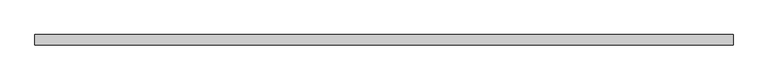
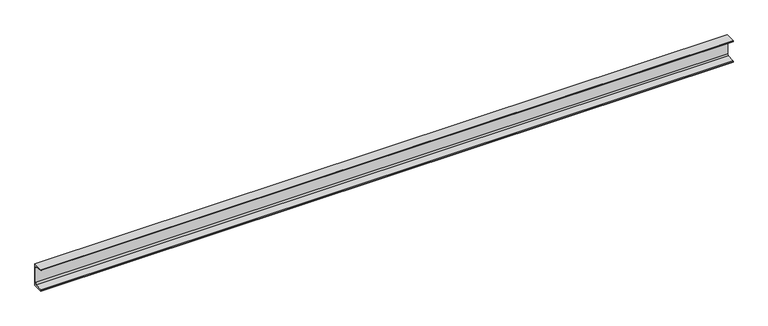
"""IFC4 building model written with IfcOpenShell, lengths in millimetres: beam geometry, C-образный профиль (ГОСТ 8240-89) Балки : [ 10."""

from ifc_helpers import new_model, si_unit, point, frame, frame_2d, origin, place, context, project, spatial, polyline, circle_curve, trimmed, segment, composite_curve, outline, extrude, source, transform, mapped, element, save


def beam_e3196a96(model_context):
    return source(origin(), model_context, "Body", "SweptSolid", [
        extrude(outline(composite_curve([segment(polyline([(14.4, 50.0), (14.4, -50.0), (-31.6, -50.0), (-31.6, -47.8215228)]), True, "CONTINUOUS"), segment(trimmed(circle_curve(frame_2d((-28.6, -47.8215228)), 3.0), [point((-31.6, -47.8215228))], [point((-28.9574357, -44.8428923))], False, "CARTESIAN"), True, "CONTINUOUS"), segment(polyline([(-28.9574357, -44.8428923), (3.7340165, -40.919918)]), True, "CONTINUOUS"), segment(trimmed(circle_curve(frame_2d((2.9, -33.9697801)), 7.0), [point((3.7340165, -40.919918))], [point((9.9, -33.9697801))], True, "CARTESIAN"), True, "CONTINUOUS"), segment(polyline([(9.9, -33.9697801), (9.9, 33.9697801)]), True, "CONTINUOUS"), segment(trimmed(circle_curve(frame_2d((2.9, 33.9697801)), 7.0), [point((9.9, 33.9697801))], [point((3.7340165, 40.919918))], True, "CARTESIAN"), True, "CONTINUOUS"), segment(polyline([(3.7340165, 40.919918), (-28.9574357, 44.8428923)]), True, "CONTINUOUS"), segment(trimmed(circle_curve(frame_2d((-28.6, 47.8215228)), 3.0), [point((-28.9574357, 44.8428923))], [point((-31.6, 47.8215228))], False, "CARTESIAN"), True, "CONTINUOUS"), segment(polyline([(-31.6, 47.8215228), (-31.6, 50.0), (14.4, 50.0)]), True, "CONTINUOUS")], self_intersect=False)), frame((-1525.0, 0.0, 0.0), z_axis=(1.0, 0.0, 0.0), x_axis=(0.0, 1.0, 0.0)), (0.0, 0.0, 1.0), 3050.0),
    ])


if __name__ == "__main__":
    model = new_model("IFC4")
    model_context = context("Model", 3, world=origin())
    ifc_project = project(units=[si_unit("LENGTHUNIT", "METRE", prefix="MILLI")], contexts=[model_context])
    site = spatial("IfcSite", under=ifc_project)
    building = spatial("IfcBuilding", under=site)
    placement = place(None, origin())
    beam_shape = beam_e3196a96(model_context)
    element("IfcBeam", 1, ObjectType="C-образный профиль (ГОСТ 8240-89) Балки : [ 10", at=placement, inside=building, context=model_context, shape_type="MappedRepresentation", body=[
        mapped(beam_shape, transform((0.0, 0.0, 0.0), x_axis=(1.0, 0.0, 0.0), y_axis=(0.0, 1.0, 0.0), z_axis=(0.0, 0.0, 1.0))),
    ])
    save(model, "model.ifc")
